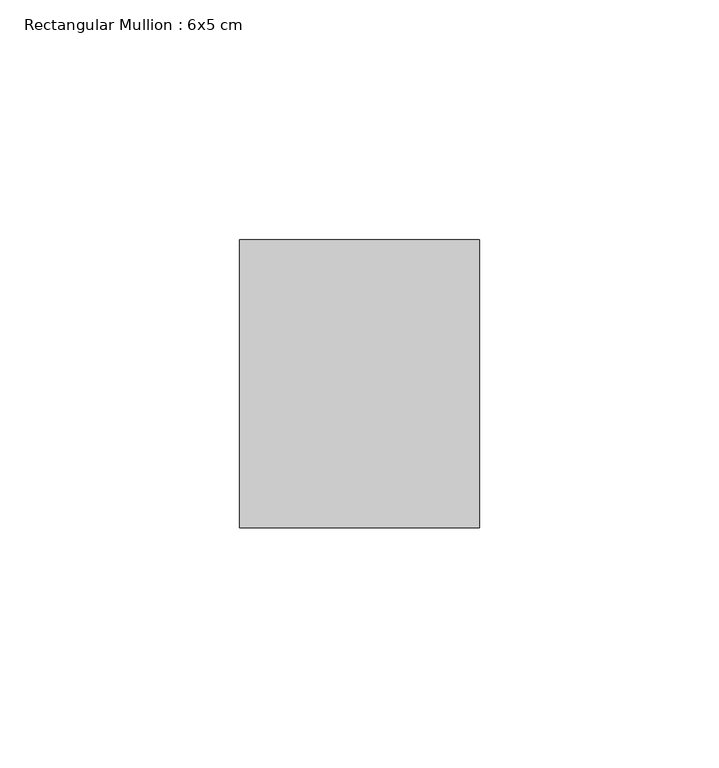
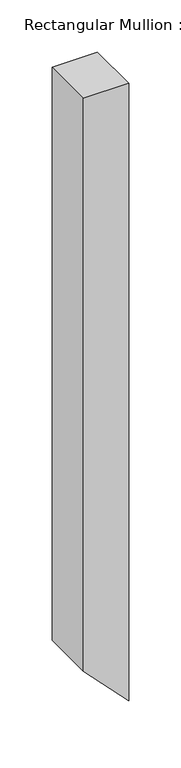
"""IFC4 building model written with IfcOpenShell, lengths in millimetres: member geometry, Rectangular Mullion : 6x5 cm."""

from ifc_helpers import new_model, si_unit, frame, origin, place, context, project, spatial, polyline, outline, extrude, source, transform, mapped, element, save


def rectangular_mullion_6x5_cm_d8a74bb4(model_context):
    return source(origin(), model_context, "Body", "SweptSolid", [
        extrude(outline(polyline([(0.0, 0.0), (0.0, -50.0), (-670.6400821, -50.0), (-722.8416147, 0.0), (0.0, 0.0)])), frame((0.0, 20.0, 0.0), z_axis=(0.0, 1.0, 0.0), x_axis=(0.0, 0.0, 1.0)), (0.0, 0.0, 1.0), 60.0),
    ])


if __name__ == "__main__":
    model = new_model("IFC4")
    model_context = context("Model", 3, world=origin())
    ifc_project = project(units=[si_unit("LENGTHUNIT", "METRE", prefix="MILLI")], contexts=[model_context])
    site = spatial("IfcSite", under=ifc_project)
    building = spatial("IfcBuilding", under=site)
    placement = place(None, origin())
    rectangular_mullion_6x5_cm_shape = rectangular_mullion_6x5_cm_d8a74bb4(model_context)
    element("IfcMember", 1, ObjectType="Rectangular Mullion : 6x5 cm", at=placement, inside=building, context=model_context, shape_type="MappedRepresentation", body=[
        mapped(rectangular_mullion_6x5_cm_shape, transform((0.0, 0.0, 0.0), x_axis=(1.0, 0.0, 0.0), y_axis=(0.0, 1.0, 0.0), z_axis=(0.0, 0.0, 1.0))),
    ])
    save(model, "model.ifc")
